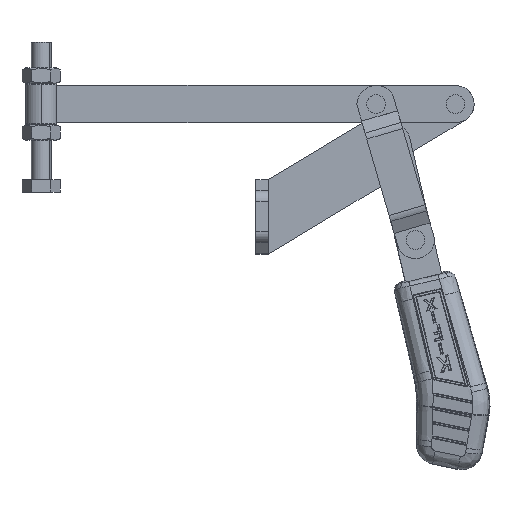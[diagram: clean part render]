
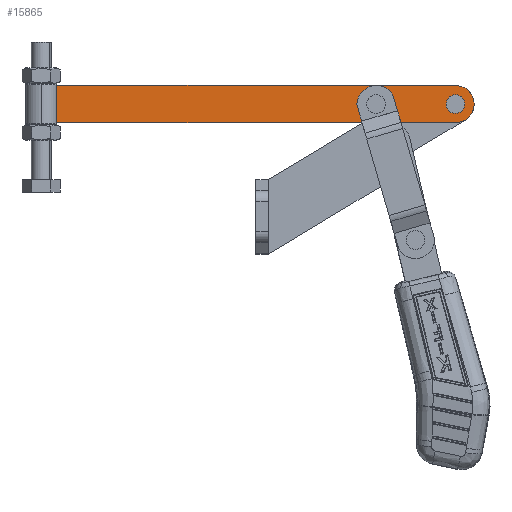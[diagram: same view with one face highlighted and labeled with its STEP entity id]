
A CAD part, top view. The second image highlights one B-rep face of the part: STEP entity #15865.
In plain terms, the highlighted planar face has unit normal (0, 0, 1) as drawn and (0, 0, -1) by its records, which use the part's own axes.
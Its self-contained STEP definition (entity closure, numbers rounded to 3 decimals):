
#546 = CIRCLE ( 'NONE', #29424, 9.525 ) ;
#689 = AXIS2_PLACEMENT_3D ( 'NONE', #5904, #21928, #8189 ) ;
#1100 = CARTESIAN_POINT ( 'NONE',  ( -9.525, -9.525, -9.525 ) ) ;
#1540 = VECTOR ( 'NONE', #11799, 1000. ) ;
#1621 = VECTOR ( 'NONE', #9257, 1000. ) ;
#1700 = DIRECTION ( 'NONE',  ( 0., 0., 1. ) ) ;
#1925 = AXIS2_PLACEMENT_3D ( 'NONE', #22749, #9003, #25059 ) ;
#2038 = DIRECTION ( 'NONE',  ( 0., 0., -1. ) ) ;
#2099 = EDGE_CURVE ( 'NONE', #23274, #8346, #546, .T. ) ;
#2299 = EDGE_CURVE ( 'NONE', #8346, #4330, #7703, .T. ) ;
#2525 = CIRCLE ( 'NONE', #1925, 4. ) ;
#2569 = CARTESIAN_POINT ( 'NONE',  ( -9.525, -9.525, -9.525 ) ) ;
#3254 = CARTESIAN_POINT ( 'NONE',  ( -213., -9.525, -9.525 ) ) ;
#3705 = CIRCLE ( 'NONE', #4266, 4. ) ;
#4266 = AXIS2_PLACEMENT_3D ( 'NONE', #8404, #24472, #10728 ) ;
#4282 = FACE_OUTER_BOUND ( 'NONE', #13842, .T. ) ;
#4330 = VERTEX_POINT ( 'NONE', #7173 ) ;
#4659 = CARTESIAN_POINT ( 'NONE',  ( -213., 9.525, -9.525 ) ) ;
#5329 = CARTESIAN_POINT ( 'NONE',  ( -54.025, 0., -9.525 ) ) ;
#5432 = EDGE_LOOP ( 'NONE', ( #9306, #6799 ) ) ;
#5854 = EDGE_CURVE ( 'NONE', #4330, #14056, #22527, .T. ) ;
#5904 = CARTESIAN_POINT ( 'NONE',  ( -50.025, 0., -9.525 ) ) ;
#6799 = ORIENTED_EDGE ( 'NONE', *, *, #24024, .T. ) ;
#6983 = CARTESIAN_POINT ( 'NONE',  ( -213., -9.525, -9.525 ) ) ;
#7173 = CARTESIAN_POINT ( 'NONE',  ( -213., 9.525, -9.525 ) ) ;
#7347 = CARTESIAN_POINT ( 'NONE',  ( -9.525, 9.525, -9.525 ) ) ;
#7651 = DIRECTION ( 'NONE',  ( 0., 0., 1. ) ) ;
#7703 = LINE ( 'NONE', #4659, #1621 ) ;
#8189 = DIRECTION ( 'NONE',  ( 1., 0., 0. ) ) ;
#8346 = VERTEX_POINT ( 'NONE', #7347 ) ;
#8404 = CARTESIAN_POINT ( 'NONE',  ( -50.025, 0., -9.525 ) ) ;
#8682 = VERTEX_POINT ( 'NONE', #29534 ) ;
#9003 = DIRECTION ( 'NONE',  ( 0., 0., 1. ) ) ;
#9257 = DIRECTION ( 'NONE',  ( -1., 0., 0. ) ) ;
#9306 = ORIENTED_EDGE ( 'NONE', *, *, #21288, .T. ) ;
#10728 = DIRECTION ( 'NONE',  ( 1., 0., 0. ) ) ;
#10877 = VERTEX_POINT ( 'NONE', #29443 ) ;
#11126 = CIRCLE ( 'NONE', #21635, 4. ) ;
#11194 = ORIENTED_EDGE ( 'NONE', *, *, #5854, .F. ) ;
#11207 = EDGE_CURVE ( 'NONE', #26810, #24552, #3705, .T. ) ;
#11364 = DIRECTION ( 'NONE',  ( -1., 0., 0. ) ) ;
#11412 = EDGE_CURVE ( 'NONE', #14056, #23274, #13019, .T. ) ;
#11799 = DIRECTION ( 'NONE',  ( 1., 0., 0. ) ) ;
#11911 = ORIENTED_EDGE ( 'NONE', *, *, #11207, .T. ) ;
#13019 = LINE ( 'NONE', #2569, #1540 ) ;
#13842 = EDGE_LOOP ( 'NONE', ( #11194, #14496, #20581, #20936 ) ) ;
#14056 = VERTEX_POINT ( 'NONE', #6983 ) ;
#14496 = ORIENTED_EDGE ( 'NONE', *, *, #2299, .F. ) ;
#15436 = CARTESIAN_POINT ( 'NONE',  ( -9.525, 0., -9.525 ) ) ;
#15865 = ADVANCED_FACE ( 'NONE', ( #28713, #27986, #4282 ), #20489, .T. ) ;
#16628 = EDGE_CURVE ( 'NONE', #24552, #26810, #17366, .T. ) ;
#17366 = CIRCLE ( 'NONE', #689, 4. ) ;
#17738 = DIRECTION ( 'NONE',  ( -1., 0., 0. ) ) ;
#17855 = ORIENTED_EDGE ( 'NONE', *, *, #16628, .T. ) ;
#19294 = DIRECTION ( 'NONE',  ( 0., -1., 0. ) ) ;
#20489 = PLANE ( 'NONE',  #25476 ) ;
#20581 = ORIENTED_EDGE ( 'NONE', *, *, #2099, .F. ) ;
#20936 = ORIENTED_EDGE ( 'NONE', *, *, #11412, .F. ) ;
#21288 = EDGE_CURVE ( 'NONE', #8682, #10877, #2525, .T. ) ;
#21399 = CARTESIAN_POINT ( 'NONE',  ( -9.525, 0., -9.525 ) ) ;
#21635 = AXIS2_PLACEMENT_3D ( 'NONE', #21399, #7651, #23717 ) ;
#21928 = DIRECTION ( 'NONE',  ( 0., 0., 1. ) ) ;
#22127 = EDGE_LOOP ( 'NONE', ( #11911, #17855 ) ) ;
#22527 = LINE ( 'NONE', #3254, #29378 ) ;
#22749 = CARTESIAN_POINT ( 'NONE',  ( -9.525, 0., -9.525 ) ) ;
#22806 = CARTESIAN_POINT ( 'NONE',  ( -9.525, 0., -9.525 ) ) ;
#23274 = VERTEX_POINT ( 'NONE', #1100 ) ;
#23717 = DIRECTION ( 'NONE',  ( 1., 0., 0. ) ) ;
#24024 = EDGE_CURVE ( 'NONE', #10877, #8682, #11126, .T. ) ;
#24320 = CARTESIAN_POINT ( 'NONE',  ( -46.025, 0., -9.525 ) ) ;
#24472 = DIRECTION ( 'NONE',  ( 0., 0., 1. ) ) ;
#24552 = VERTEX_POINT ( 'NONE', #5329 ) ;
#25059 = DIRECTION ( 'NONE',  ( 1., 0., 0. ) ) ;
#25476 = AXIS2_PLACEMENT_3D ( 'NONE', #22806, #2038, #11364 ) ;
#26810 = VERTEX_POINT ( 'NONE', #24320 ) ;
#27986 = FACE_BOUND ( 'NONE', #22127, .T. ) ;
#28713 = FACE_BOUND ( 'NONE', #5432, .T. ) ;
#29378 = VECTOR ( 'NONE', #19294, 1000. ) ;
#29424 = AXIS2_PLACEMENT_3D ( 'NONE', #15436, #1700, #17738 ) ;
#29443 = CARTESIAN_POINT ( 'NONE',  ( -13.525, 0., -9.525 ) ) ;
#29534 = CARTESIAN_POINT ( 'NONE',  ( -5.525, 0., -9.525 ) ) ;
